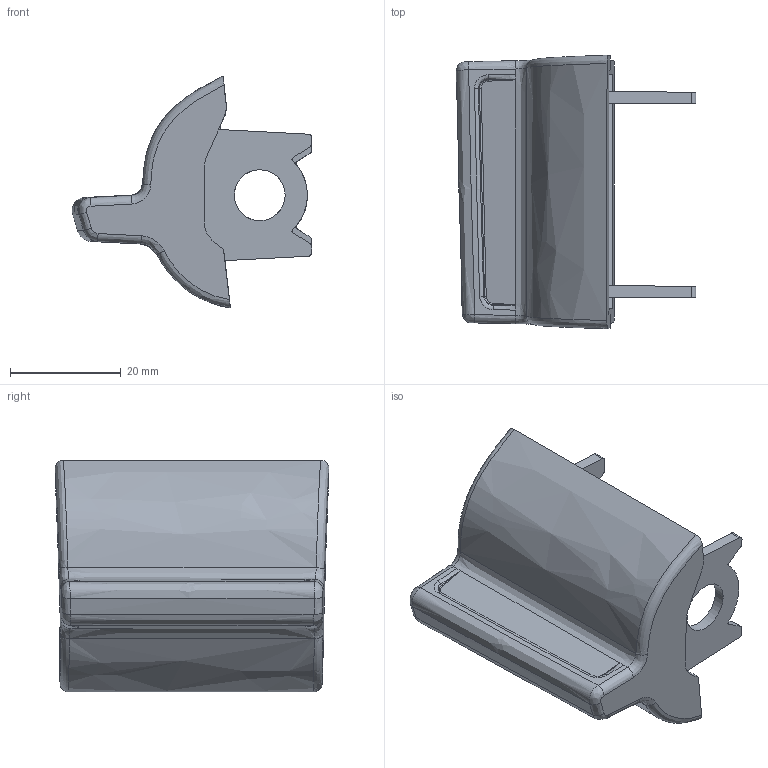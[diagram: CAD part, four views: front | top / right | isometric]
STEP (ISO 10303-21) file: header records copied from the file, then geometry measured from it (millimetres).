
FILE_DESCRIPTION(('CATIA V5 STEP Exchange','CAx-IF Rec.Pracs.--- Model Styling and Organization---1.4--- 2014-01-23'),'2;1');
FILE_NAME('C:\Users\luhaitao\Desktop\塑料件平台项目\塑料件样件清单\05.stp','2025-04-28T01:07:15+00:00',('none'),('none'),'CATIA Version 5-6 Release 2017','CATIA V5 STEP AP214','none');
FILE_SCHEMA(('AUTOMOTIVE_DESIGN { 1 0 10303 214 1 1 1 1 }'));
Length unit declared in the file: millimetre
Products named in the file (1): 05
Bounding box: 43.26 x 49.36 x 41.85 mm (x, y, z)
Volume: 13882.1 mm3; surface area: 13744.8 mm2
Topology: 1 solids, 1 shells, 245 faces, 697 edges, 451 vertices
Faces by surface type: bspline 122, plane 91, cylinder 26, torus 4, cone 2
Entity records: 14258 total; most frequent: CARTESIAN_POINT 9426, ORIENTED_EDGE 1388, EDGE_CURVE 694, VERTEX_POINT 451, B_SPLINE_CURVE_WITH_KNOTS 415, DIRECTION 381, EDGE_LOOP 249, ADVANCED_FACE 245
